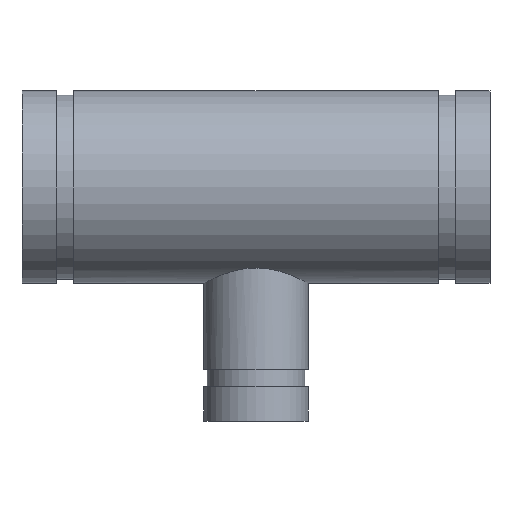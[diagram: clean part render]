
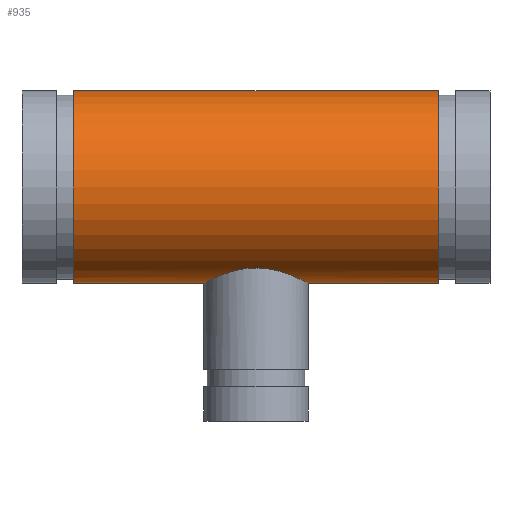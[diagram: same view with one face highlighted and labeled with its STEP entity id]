
A CAD part, top view. The second image highlights one B-rep face of the part: STEP entity #935.
In plain terms, the highlighted cylindrical face has radius 44.45 mm (diameter 88.9 mm), a full revolution.
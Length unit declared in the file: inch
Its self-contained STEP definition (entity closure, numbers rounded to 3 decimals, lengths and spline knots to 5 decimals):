
#61=FACE_BOUND('',#222,.T.);
#67=B_SPLINE_CURVE_WITH_KNOTS('',3,(#1807,#1808,#1809,#1810,#1811,#1812,
#1813,#1814,#1815,#1816,#1817,#1818,#1819,#1820,#1821,#1822,#1823,#1824),
 .UNSPECIFIED.,.F.,.F.,(4,2,2,2,2,2,2,2,4),(0.,0.46667,0.93334,
1.40002,1.86669,2.3315,2.79631,3.26112,
3.72593),.UNSPECIFIED.);
#68=B_SPLINE_CURVE_WITH_KNOTS('',3,(#1825,#1826,#1827,#1828,#1829,#1830,
#1831,#1832,#1833,#1834,#1835,#1836,#1837,#1838,#1839,#1840,#1841,#1842,
#1843,#1844,#1845,#1846,#1847,#1848,#1849,#1850,#1851,#1852,#1853,#1854,
#1855,#1856,#1857,#1858,#1859,#1860,#1861,#1862,#1863,#1864,#1865,#1866,
#1867,#1868,#1869,#1870,#1871,#1872,#1873,#1874),.UNSPECIFIED.,.F.,.F.,
(4,2,2,2,2,2,2,2,2,2,2,2,2,2,2,2,2,2,2,2,2,2,2,2,4),(3.72593,4.19074,
4.65555,5.12036,5.58517,6.05184,6.51852,
6.98519,7.45186,7.91853,8.38521,8.85188,
9.31855,9.78336,10.24817,10.71298,11.17779,
11.6426,12.10741,12.57222,13.03703,13.5037,
13.97038,14.43705,14.90372),.UNSPECIFIED.);
#81=CYLINDRICAL_SURFACE('',#1104,1.75);
#103=LINE('',#1804,#125);
#125=VECTOR('',#1432,1.75);
#171=FACE_OUTER_BOUND('',#221,.T.);
#221=EDGE_LOOP('',(#814,#815,#816,#817));
#222=EDGE_LOOP('',(#818,#819));
#326=CIRCLE('',#1087,1.75);
#337=CIRCLE('',#1103,1.75);
#424=VERTEX_POINT('',#1772);
#435=VERTEX_POINT('',#1801);
#436=VERTEX_POINT('',#1805);
#437=VERTEX_POINT('',#1806);
#552=EDGE_CURVE('',#424,#424,#326,.T.);
#565=EDGE_CURVE('',#435,#435,#337,.T.);
#566=EDGE_CURVE('',#435,#424,#103,.T.);
#567=EDGE_CURVE('',#436,#437,#67,.T.);
#568=EDGE_CURVE('',#437,#436,#68,.T.);
#814=ORIENTED_EDGE('',*,*,#565,.T.);
#815=ORIENTED_EDGE('',*,*,#566,.T.);
#816=ORIENTED_EDGE('',*,*,#552,.T.);
#817=ORIENTED_EDGE('',*,*,#566,.F.);
#818=ORIENTED_EDGE('',*,*,#567,.T.);
#819=ORIENTED_EDGE('',*,*,#568,.T.);
#935=ADVANCED_FACE('',(#171,#61),#81,.T.);
#1087=AXIS2_PLACEMENT_3D('',#1773,#1394,#1395);
#1103=AXIS2_PLACEMENT_3D('',#1802,#1428,#1429);
#1104=AXIS2_PLACEMENT_3D('',#1803,#1430,#1431);
#1394=DIRECTION('center_axis',(-1.,0.,0.));
#1395=DIRECTION('ref_axis',(0.,-1.,0.));
#1428=DIRECTION('center_axis',(1.,0.,0.));
#1429=DIRECTION('ref_axis',(0.,-1.,0.));
#1430=DIRECTION('center_axis',(-1.,0.,0.));
#1431=DIRECTION('ref_axis',(0.,-1.,0.));
#1432=DIRECTION('',(1.,0.,0.));
#1772=CARTESIAN_POINT('',(3.312,1.75,0.));
#1773=CARTESIAN_POINT('Origin',(3.312,0.,0.));
#1801=CARTESIAN_POINT('',(-3.312,1.75,0.));
#1802=CARTESIAN_POINT('Origin',(-3.312,0.,0.));
#1803=CARTESIAN_POINT('Origin',(4.25,0.,0.));
#1804=CARTESIAN_POINT('',(4.25,1.75,0.));
#1805=CARTESIAN_POINT('',(0.,-1.46969,-0.95));
#1806=CARTESIAN_POINT('',(-0.95,-1.75,0.));
#1807=CARTESIAN_POINT('Ctrl Pts',(0.,-1.46969,
-0.95));
#1808=CARTESIAN_POINT('Ctrl Pts',(-0.06124,-1.46969,
-0.95));
#1809=CARTESIAN_POINT('Ctrl Pts',(-0.124,-1.47364,-0.94399));
#1810=CARTESIAN_POINT('Ctrl Pts',(-0.24784,-1.48918,
-0.91927));
#1811=CARTESIAN_POINT('Ctrl Pts',(-0.30893,-1.50075,-0.90058));
#1812=CARTESIAN_POINT('Ctrl Pts',(-0.42539,-1.52898,
-0.85178));
#1813=CARTESIAN_POINT('Ctrl Pts',(-0.48089,-1.54562,
-0.82163));
#1814=CARTESIAN_POINT('Ctrl Pts',(-0.58329,-1.58048,
-0.75239));
#1815=CARTESIAN_POINT('Ctrl Pts',(-0.6302,-1.59866,
-0.7133));
#1816=CARTESIAN_POINT('Ctrl Pts',(-0.71313,-1.63314,
-0.63037));
#1817=CARTESIAN_POINT('Ctrl Pts',(-0.7522,-1.65072,
-0.58354));
#1818=CARTESIAN_POINT('Ctrl Pts',(-0.8215,-1.68343,
-0.4811));
#1819=CARTESIAN_POINT('Ctrl Pts',(-0.85174,-1.69853,
-0.4255));
#1820=CARTESIAN_POINT('Ctrl Pts',(-0.90064,-1.72357,
-0.30879));
#1821=CARTESIAN_POINT('Ctrl Pts',(-0.91935,-1.73352,-0.24758));
#1822=CARTESIAN_POINT('Ctrl Pts',(-0.94403,-1.74674,-0.12368));
#1823=CARTESIAN_POINT('Ctrl Pts',(-0.95,-1.75,-0.061));
#1824=CARTESIAN_POINT('Ctrl Pts',(-0.95,-1.75,0.));
#1825=CARTESIAN_POINT('Ctrl Pts',(-0.95,-1.75,0.));
#1826=CARTESIAN_POINT('Ctrl Pts',(-0.95,-1.75,0.061));
#1827=CARTESIAN_POINT('Ctrl Pts',(-0.94403,-1.74674,0.12368));
#1828=CARTESIAN_POINT('Ctrl Pts',(-0.91935,-1.73352,0.24758));
#1829=CARTESIAN_POINT('Ctrl Pts',(-0.90064,-1.72357,
0.30879));
#1830=CARTESIAN_POINT('Ctrl Pts',(-0.85174,-1.69853,
0.4255));
#1831=CARTESIAN_POINT('Ctrl Pts',(-0.8215,-1.68343,
0.4811));
#1832=CARTESIAN_POINT('Ctrl Pts',(-0.7522,-1.65072,
0.58354));
#1833=CARTESIAN_POINT('Ctrl Pts',(-0.71313,-1.63314,
0.63037));
#1834=CARTESIAN_POINT('Ctrl Pts',(-0.6302,-1.59866,
0.7133));
#1835=CARTESIAN_POINT('Ctrl Pts',(-0.58329,-1.58048,
0.75239));
#1836=CARTESIAN_POINT('Ctrl Pts',(-0.48089,-1.54562,
0.82163));
#1837=CARTESIAN_POINT('Ctrl Pts',(-0.42539,-1.52898,
0.85178));
#1838=CARTESIAN_POINT('Ctrl Pts',(-0.30893,-1.50075,0.90058));
#1839=CARTESIAN_POINT('Ctrl Pts',(-0.24784,-1.48918,
0.91927));
#1840=CARTESIAN_POINT('Ctrl Pts',(-0.124,-1.47364,0.94399));
#1841=CARTESIAN_POINT('Ctrl Pts',(-0.06124,-1.46969,
0.95));
#1842=CARTESIAN_POINT('Ctrl Pts',(0.06124,-1.46969,
0.95));
#1843=CARTESIAN_POINT('Ctrl Pts',(0.124,-1.47364,0.94399));
#1844=CARTESIAN_POINT('Ctrl Pts',(0.24784,-1.48918,0.91927));
#1845=CARTESIAN_POINT('Ctrl Pts',(0.30893,-1.50075,0.90058));
#1846=CARTESIAN_POINT('Ctrl Pts',(0.42539,-1.52898,0.85178));
#1847=CARTESIAN_POINT('Ctrl Pts',(0.48089,-1.54562,0.82163));
#1848=CARTESIAN_POINT('Ctrl Pts',(0.58329,-1.58048,0.75239));
#1849=CARTESIAN_POINT('Ctrl Pts',(0.6302,-1.59866,0.7133));
#1850=CARTESIAN_POINT('Ctrl Pts',(0.71313,-1.63314,0.63037));
#1851=CARTESIAN_POINT('Ctrl Pts',(0.7522,-1.65072,0.58354));
#1852=CARTESIAN_POINT('Ctrl Pts',(0.8215,-1.68343,0.4811));
#1853=CARTESIAN_POINT('Ctrl Pts',(0.85174,-1.69853,0.4255));
#1854=CARTESIAN_POINT('Ctrl Pts',(0.90064,-1.72357,0.30879));
#1855=CARTESIAN_POINT('Ctrl Pts',(0.91935,-1.73352,0.24758));
#1856=CARTESIAN_POINT('Ctrl Pts',(0.94403,-1.74674,0.12368));
#1857=CARTESIAN_POINT('Ctrl Pts',(0.95,-1.75,0.061));
#1858=CARTESIAN_POINT('Ctrl Pts',(0.95,-1.75,-0.061));
#1859=CARTESIAN_POINT('Ctrl Pts',(0.94403,-1.74674,-0.12368));
#1860=CARTESIAN_POINT('Ctrl Pts',(0.91935,-1.73352,-0.24758));
#1861=CARTESIAN_POINT('Ctrl Pts',(0.90064,-1.72357,-0.30879));
#1862=CARTESIAN_POINT('Ctrl Pts',(0.85174,-1.69853,-0.4255));
#1863=CARTESIAN_POINT('Ctrl Pts',(0.8215,-1.68343,-0.4811));
#1864=CARTESIAN_POINT('Ctrl Pts',(0.7522,-1.65072,-0.58354));
#1865=CARTESIAN_POINT('Ctrl Pts',(0.71313,-1.63314,-0.63037));
#1866=CARTESIAN_POINT('Ctrl Pts',(0.6302,-1.59866,-0.7133));
#1867=CARTESIAN_POINT('Ctrl Pts',(0.58329,-1.58048,-0.75239));
#1868=CARTESIAN_POINT('Ctrl Pts',(0.48089,-1.54562,-0.82163));
#1869=CARTESIAN_POINT('Ctrl Pts',(0.42539,-1.52898,-0.85178));
#1870=CARTESIAN_POINT('Ctrl Pts',(0.30893,-1.50075,-0.90058));
#1871=CARTESIAN_POINT('Ctrl Pts',(0.24784,-1.48918,-0.91927));
#1872=CARTESIAN_POINT('Ctrl Pts',(0.124,-1.47364,-0.94399));
#1873=CARTESIAN_POINT('Ctrl Pts',(0.06124,-1.46969,
-0.95));
#1874=CARTESIAN_POINT('Ctrl Pts',(0.,-1.46969,-0.95));
